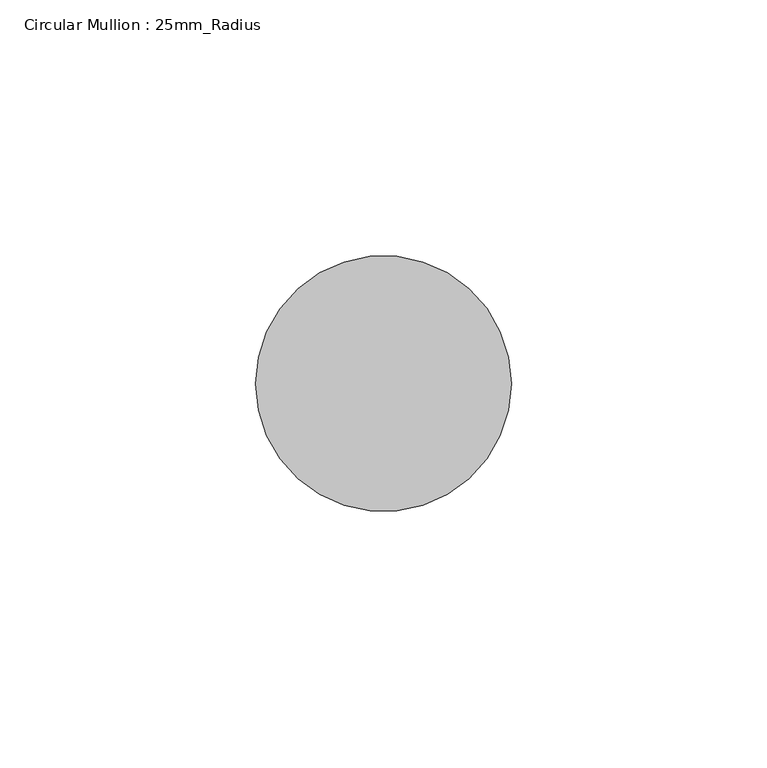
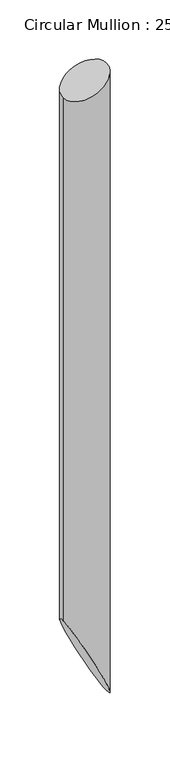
"""IFC4 building model written with IfcOpenShell, lengths in millimetres: member geometry, Circular Mullion : 25mm_Radius."""

from ifc_helpers import new_model, si_unit, frame, origin, place, context, project, spatial, ellipse_curve, source, transform, mapped, element, save
from ifc_brep_helpers import plane_surface, cylinder_surface, advanced_brep


def circular_mullion_25mm_radius_b567edc3(model_context):
    return source(origin(), model_context, "Body", "AdvancedBrep", [
        advanced_brep(
        [(-50.0, 0.0, -24.5758561), (0.0, 0.0, 0.0), (0.0, 0.0, -757.8102741), (-50.0, 0.0, -656.0844181)],
        [
            (0, 1, ellipse_curve(frame((-25.0, 0.0, -12.2879281), z_axis=(0.4411128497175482, 0.0, -0.8974516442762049), x_axis=(0.8974516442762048, 0.0, 0.44111284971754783)), 27.8566541, 25.0)),
            (1, 2),
            (2, 3, ellipse_curve(frame((-25.0, 0.0, -706.9473461), z_axis=(0.8974516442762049, 0.0, 0.4411128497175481), x_axis=(-0.4411128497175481, 0.0, 0.8974516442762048)), 56.6748396, 25.0)),
            (3, 0),
            (1, 0, ellipse_curve(frame((-25.0, 0.0, -12.2879281), z_axis=(0.4411128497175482, 0.0, -0.8974516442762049), x_axis=(0.8974516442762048, 0.0, 0.44111284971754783)), 27.8566541, 25.0)),
            (3, 2, ellipse_curve(frame((-25.0, 0.0, -706.9473461), z_axis=(0.8974516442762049, 0.0, 0.4411128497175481), x_axis=(-0.4411128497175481, 0.0, 0.8974516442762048)), 56.6748396, 25.0)),
        ],
        [
            cylinder_surface(frame((-25.0, 0.0, 0.0), z_axis=(0.0, 0.0, 1.0), x_axis=(1.0, 0.0, 0.0)), 25.0),
            plane_surface(frame((0.0, -304.8, 0.0), z_axis=(-0.4411128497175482, 0.0, 0.8974516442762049), x_axis=(-0.8974516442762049, 0.0, -0.4411128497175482))),
            plane_surface(frame((0.0, -304.8, -757.8102741), z_axis=(-0.8974516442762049, 0.0, -0.4411128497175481), x_axis=(-0.4411128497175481, 0.0, 0.8974516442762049))),
        ],
        [
            (0, [[1, 2, 3, 4]]),
            (0, [[5, -4, 6, -2]]),
            (1, [[-1, -5]]),
            (2, [[-6, -3]]),
        ],
    ),
    ])


if __name__ == "__main__":
    model = new_model("IFC4")
    model_context = context("Model", 3, world=origin())
    ifc_project = project(units=[si_unit("LENGTHUNIT", "METRE", prefix="MILLI")], contexts=[model_context])
    site = spatial("IfcSite", under=ifc_project)
    building = spatial("IfcBuilding", under=site)
    placement = place(None, origin())
    circular_mullion_25mm_radius_shape = circular_mullion_25mm_radius_b567edc3(model_context)
    element("IfcMember", 1, ObjectType="Circular Mullion : 25mm_Radius", at=placement, inside=building, context=model_context, shape_type="MappedRepresentation", body=[
        mapped(circular_mullion_25mm_radius_shape, transform((0.0, 0.0, 0.0), x_axis=(1.0, 0.0, 0.0), y_axis=(0.0, 1.0, 0.0), z_axis=(0.0, 0.0, 1.0))),
    ])
    save(model, "model.ifc")
